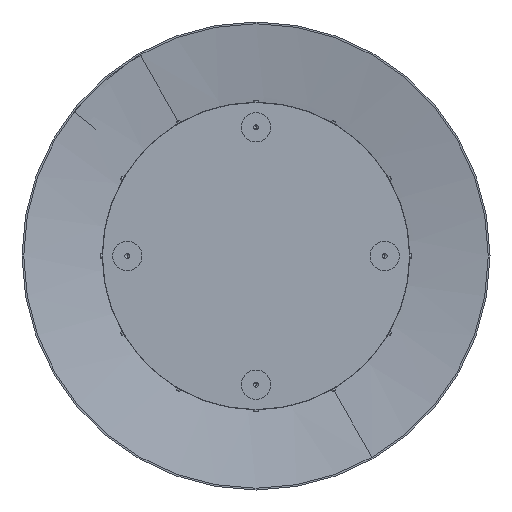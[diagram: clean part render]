
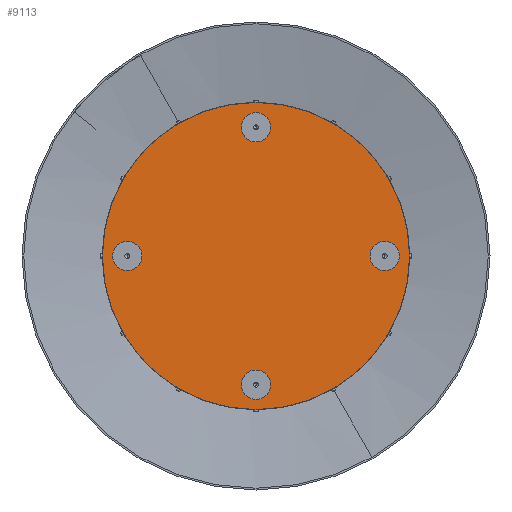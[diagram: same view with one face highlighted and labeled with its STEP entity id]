
A CAD part, front view. The second image highlights one B-rep face of the part: STEP entity #9113.
In plain terms, the highlighted planar face has unit normal (0, -1, 0).
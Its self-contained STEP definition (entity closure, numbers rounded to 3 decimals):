
#254 = CARTESIAN_POINT ( 'NONE',  ( 0., 0., 195. ) ) ;
#393 = CARTESIAN_POINT ( 'NONE',  ( -220., 0., 0. ) ) ;
#447 = EDGE_LOOP ( 'NONE', ( #1883, #5278 ) ) ;
#458 = VERTEX_POINT ( 'NONE', #1195 ) ;
#1195 = CARTESIAN_POINT ( 'NONE',  ( 0., 0., -195. ) ) ;
#1319 = VERTEX_POINT ( 'NONE', #3078 ) ;
#1412 = DIRECTION ( 'NONE',  ( 0., -1., 0. ) ) ;
#1647 = CARTESIAN_POINT ( 'NONE',  ( 0., 0., 0. ) ) ;
#1883 = ORIENTED_EDGE ( 'NONE', *, *, #6199, .F. ) ;
#2015 = EDGE_CURVE ( 'NONE', #13987, #12651, #2223, .T. ) ;
#2043 = EDGE_CURVE ( 'NONE', #12651, #13987, #4577, .T. ) ;
#2103 = CARTESIAN_POINT ( 'NONE',  ( -220., 0., 25. ) ) ;
#2223 = CIRCLE ( 'NONE', #10179, 25. ) ;
#2502 = CIRCLE ( 'NONE', #10086, 25. ) ;
#2612 = FACE_BOUND ( 'NONE', #447, .T. ) ;
#2771 = CARTESIAN_POINT ( 'NONE',  ( 220., 0., -25. ) ) ;
#3078 = CARTESIAN_POINT ( 'NONE',  ( 0., 0., -262.5 ) ) ;
#3226 = ORIENTED_EDGE ( 'NONE', *, *, #4486, .F. ) ;
#3269 = ORIENTED_EDGE ( 'NONE', *, *, #2015, .F. ) ;
#3525 = CIRCLE ( 'NONE', #13220, 25. ) ;
#3651 = AXIS2_PLACEMENT_3D ( 'NONE', #13061, #4290, #4186 ) ;
#3677 = CIRCLE ( 'NONE', #9786, 262.5 ) ;
#3711 = EDGE_CURVE ( 'NONE', #458, #13754, #9109, .T. ) ;
#4115 = EDGE_LOOP ( 'NONE', ( #3226, #11521 ) ) ;
#4186 = DIRECTION ( 'NONE',  ( 0., 0., 1. ) ) ;
#4290 = DIRECTION ( 'NONE',  ( 0., -1., 0. ) ) ;
#4296 = CARTESIAN_POINT ( 'NONE',  ( 0., 0., -245. ) ) ;
#4344 = FACE_BOUND ( 'NONE', #4626, .T. ) ;
#4486 = EDGE_CURVE ( 'NONE', #1319, #12732, #3677, .T. ) ;
#4550 = DIRECTION ( 'NONE',  ( 0., 0., 1. ) ) ;
#4577 = CIRCLE ( 'NONE', #3651, 25. ) ;
#4626 = EDGE_LOOP ( 'NONE', ( #7684, #8242 ) ) ;
#4689 = DIRECTION ( 'NONE',  ( 0., -1., 0. ) ) ;
#4697 = CARTESIAN_POINT ( 'NONE',  ( 0., 0., 262.5 ) ) ;
#4737 = CARTESIAN_POINT ( 'NONE',  ( 220., 0., 0. ) ) ;
#4857 = DIRECTION ( 'NONE',  ( 0., 1., 0. ) ) ;
#5000 = PLANE ( 'NONE',  #8430 ) ;
#5024 = DIRECTION ( 'NONE',  ( 0., 0., 1. ) ) ;
#5188 = CARTESIAN_POINT ( 'NONE',  ( 220., 0., 25. ) ) ;
#5278 = ORIENTED_EDGE ( 'NONE', *, *, #12465, .F. ) ;
#5558 = AXIS2_PLACEMENT_3D ( 'NONE', #393, #1412, #8194 ) ;
#5627 = CARTESIAN_POINT ( 'NONE',  ( 0., 0., -220. ) ) ;
#6123 = DIRECTION ( 'NONE',  ( 0., 0., 1. ) ) ;
#6140 = ORIENTED_EDGE ( 'NONE', *, *, #3711, .F. ) ;
#6173 = DIRECTION ( 'NONE',  ( 0., 1., 0. ) ) ;
#6199 = EDGE_CURVE ( 'NONE', #7634, #8495, #2502, .T. ) ;
#6210 = EDGE_LOOP ( 'NONE', ( #6140, #10512 ) ) ;
#6881 = CARTESIAN_POINT ( 'NONE',  ( 0., 0., 245. ) ) ;
#6985 = VERTEX_POINT ( 'NONE', #10382 ) ;
#7018 = DIRECTION ( 'NONE',  ( 0., 0., 1. ) ) ;
#7216 = DIRECTION ( 'NONE',  ( 0., 0., 1. ) ) ;
#7288 = EDGE_CURVE ( 'NONE', #13810, #6985, #3525, .T. ) ;
#7309 = CARTESIAN_POINT ( 'NONE',  ( 0., 0., 0. ) ) ;
#7423 = EDGE_CURVE ( 'NONE', #13754, #458, #10655, .T. ) ;
#7465 = CIRCLE ( 'NONE', #5558, 25. ) ;
#7634 = VERTEX_POINT ( 'NONE', #5188 ) ;
#7684 = ORIENTED_EDGE ( 'NONE', *, *, #7288, .F. ) ;
#7710 = CARTESIAN_POINT ( 'NONE',  ( 220., 0., 0. ) ) ;
#7741 = CIRCLE ( 'NONE', #10516, 25. ) ;
#8002 = CARTESIAN_POINT ( 'NONE',  ( -220., 0., 0. ) ) ;
#8188 = CARTESIAN_POINT ( 'NONE',  ( 0., 0., -220. ) ) ;
#8194 = DIRECTION ( 'NONE',  ( 0., 0., 1. ) ) ;
#8215 = DIRECTION ( 'NONE',  ( 0., 0., 1. ) ) ;
#8242 = ORIENTED_EDGE ( 'NONE', *, *, #10073, .F. ) ;
#8250 = AXIS2_PLACEMENT_3D ( 'NONE', #5627, #13367, #4550 ) ;
#8430 = AXIS2_PLACEMENT_3D ( 'NONE', #1647, #6173, #6123 ) ;
#8495 = VERTEX_POINT ( 'NONE', #2771 ) ;
#8567 = AXIS2_PLACEMENT_3D ( 'NONE', #7309, #11823, #13943 ) ;
#9109 = CIRCLE ( 'NONE', #8250, 25. ) ;
#9113 = ADVANCED_FACE ( 'NONE', ( #2612, #10281, #4344, #10964, #9925 ), #5000, .F. ) ;
#9289 = DIRECTION ( 'NONE',  ( 0., -1., 0. ) ) ;
#9786 = AXIS2_PLACEMENT_3D ( 'NONE', #11655, #4857, #7216 ) ;
#9925 = FACE_OUTER_BOUND ( 'NONE', #4115, .T. ) ;
#10073 = EDGE_CURVE ( 'NONE', #6985, #13810, #7465, .T. ) ;
#10086 = AXIS2_PLACEMENT_3D ( 'NONE', #4737, #4689, #8215 ) ;
#10179 = AXIS2_PLACEMENT_3D ( 'NONE', #10575, #11664, #5024 ) ;
#10281 = FACE_BOUND ( 'NONE', #6210, .T. ) ;
#10382 = CARTESIAN_POINT ( 'NONE',  ( -220., 0., -25. ) ) ;
#10512 = ORIENTED_EDGE ( 'NONE', *, *, #7423, .F. ) ;
#10516 = AXIS2_PLACEMENT_3D ( 'NONE', #7710, #11058, #13253 ) ;
#10575 = CARTESIAN_POINT ( 'NONE',  ( 0., 0., 220. ) ) ;
#10655 = CIRCLE ( 'NONE', #12769, 25. ) ;
#10964 = FACE_BOUND ( 'NONE', #11411, .T. ) ;
#11058 = DIRECTION ( 'NONE',  ( 0., -1., 0. ) ) ;
#11411 = EDGE_LOOP ( 'NONE', ( #3269, #11951 ) ) ;
#11521 = ORIENTED_EDGE ( 'NONE', *, *, #12886, .F. ) ;
#11655 = CARTESIAN_POINT ( 'NONE',  ( 0., 0., 0. ) ) ;
#11664 = DIRECTION ( 'NONE',  ( 0., -1., 0. ) ) ;
#11823 = DIRECTION ( 'NONE',  ( 0., 1., 0. ) ) ;
#11951 = ORIENTED_EDGE ( 'NONE', *, *, #2043, .F. ) ;
#12465 = EDGE_CURVE ( 'NONE', #8495, #7634, #7741, .T. ) ;
#12554 = DIRECTION ( 'NONE',  ( 0., 0., 1. ) ) ;
#12651 = VERTEX_POINT ( 'NONE', #254 ) ;
#12732 = VERTEX_POINT ( 'NONE', #4697 ) ;
#12769 = AXIS2_PLACEMENT_3D ( 'NONE', #8188, #9289, #12554 ) ;
#12886 = EDGE_CURVE ( 'NONE', #12732, #1319, #14277, .T. ) ;
#13061 = CARTESIAN_POINT ( 'NONE',  ( 0., 0., 220. ) ) ;
#13220 = AXIS2_PLACEMENT_3D ( 'NONE', #8002, #13566, #7018 ) ;
#13253 = DIRECTION ( 'NONE',  ( 0., 0., 1. ) ) ;
#13367 = DIRECTION ( 'NONE',  ( 0., -1., 0. ) ) ;
#13566 = DIRECTION ( 'NONE',  ( 0., -1., 0. ) ) ;
#13754 = VERTEX_POINT ( 'NONE', #4296 ) ;
#13810 = VERTEX_POINT ( 'NONE', #2103 ) ;
#13943 = DIRECTION ( 'NONE',  ( 0., 0., 1. ) ) ;
#13987 = VERTEX_POINT ( 'NONE', #6881 ) ;
#14277 = CIRCLE ( 'NONE', #8567, 262.5 ) ;
